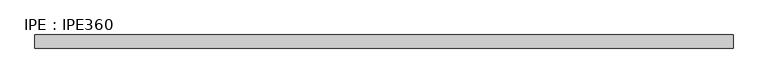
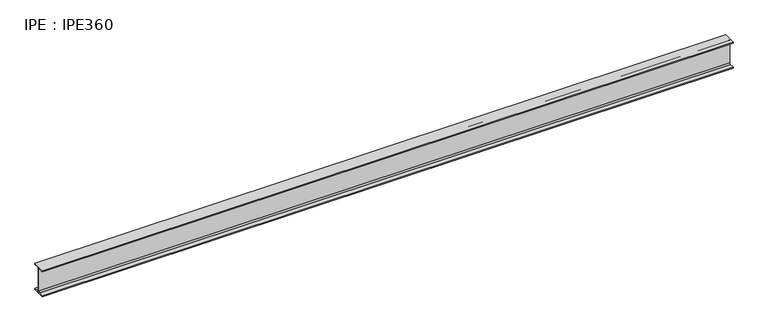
"""IFC4 building model written with IfcOpenShell, lengths in millimetres: beam geometry, IPE : IPE360."""

from ifc_helpers import new_model, si_unit, point, frame, frame_2d, origin, place, context, project, spatial, polyline, circle_curve, trimmed, segment, composite_curve, outline, extrude, source, transform, mapped, element, save


def ipe_ipe360_f2bb99bb(model_context):
    return source(origin(), model_context, "Body", "SweptSolid", [
        extrude(outline(composite_curve([segment(polyline([(85.0, -167.3), (85.0, -180.0), (-85.0, -180.0), (-85.0, -167.3), (-22.0, -167.3)]), True, "CONTINUOUS"), segment(trimmed(circle_curve(frame_2d((-22.0, -149.3)), 18.0), [point((-22.0, -167.3))], [point((-4.0, -149.3))], True, "CARTESIAN"), True, "CONTINUOUS"), segment(polyline([(-4.0, -149.3), (-4.0, 149.3)]), True, "CONTINUOUS"), segment(trimmed(circle_curve(frame_2d((-22.0, 149.3)), 18.0), [point((-4.0, 149.3))], [point((-22.0, 167.3))], True, "CARTESIAN"), True, "CONTINUOUS"), segment(polyline([(-22.0, 167.3), (-85.0, 167.3), (-85.0, 180.0), (85.0, 180.0), (85.0, 167.3), (22.0, 167.3)]), True, "CONTINUOUS"), segment(trimmed(circle_curve(frame_2d((22.0, 149.3)), 18.0), [point((22.0, 167.3))], [point((4.0, 149.3))], True, "CARTESIAN"), True, "CONTINUOUS"), segment(polyline([(4.0, 149.3), (4.0, -149.3)]), True, "CONTINUOUS"), segment(trimmed(circle_curve(frame_2d((22.0, -149.3)), 18.0), [point((4.0, -149.3))], [point((22.0, -167.3))], True, "CARTESIAN"), True, "CONTINUOUS"), segment(polyline([(22.0, -167.3), (85.0, -167.3)]), True, "CONTINUOUS")], self_intersect=False)), frame((-4486.8884004, 0.0, 0.0), z_axis=(1.0, 0.0, 0.0), x_axis=(0.0, 1.0, 0.0)), (0.0, 0.0, 1.0), 9038.1863157),
    ])


if __name__ == "__main__":
    model = new_model("IFC4")
    model_context = context("Model", 3, world=origin())
    ifc_project = project(units=[si_unit("LENGTHUNIT", "METRE", prefix="MILLI")], contexts=[model_context])
    site = spatial("IfcSite", under=ifc_project)
    building = spatial("IfcBuilding", under=site)
    placement = place(None, origin())
    ipe_ipe360_shape = ipe_ipe360_f2bb99bb(model_context)
    element("IfcBeam", 1, ObjectType="IPE : IPE360", at=placement, inside=building, context=model_context, shape_type="MappedRepresentation", body=[
        mapped(ipe_ipe360_shape, transform((0.0, 0.0, 0.0), x_axis=(1.0, 0.0, 0.0), y_axis=(0.0, 1.0, 0.0), z_axis=(0.0, 0.0, 1.0))),
    ])
    save(model, "model.ifc")
